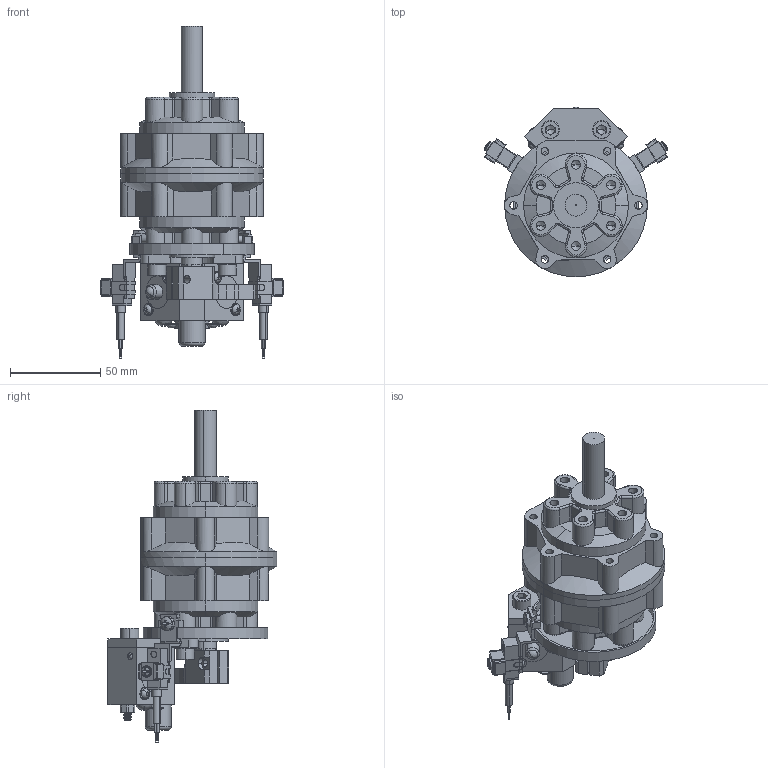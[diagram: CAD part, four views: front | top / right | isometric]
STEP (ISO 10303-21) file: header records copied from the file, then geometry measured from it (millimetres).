
FILE_DESCRIPTION (( 'STEP AP203' ), '1' );
FILE_NAME ('PRN50#-#-#-#-FC.STEP', '2016-01-14T16:40:32', ( '' ), ( '' ), 'SwSTEP 2.0', 'SolidWorks 2014', '' );
FILE_SCHEMA (( 'CONFIG_CONTROL_DESIGN' ));
Length unit declared in the file: millimetre
Products named in the file (25): 零件4; 側鐵片; 零件1; PRO-CR1; 板金2; 感應開關-板金2; PRO-CR2; M4螺絲; M6螺絲; 鏡射螺帽; 螺帽; PRN50-CR; 鏡射六孔螺帽; PRN50#-#-#-#-FC; 1; 六孔螺帽; 2; PRN50 (3); mark-PRN50; 螺絲1; PRN50 (1); CR; 圓頂; 螺絲; PRN50 (2)
Assembly tree (37 placements, depth 3):
  PRN50#-#-#-#-FC
    PRN50 (1)
    PRN50 (2)
    PRN50 (3)
    mark-PRN50
    PRN50-CR
      PRO-CR2
      2  x2
      圓頂  x3
      螺絲  x2
      零件4
      六孔螺帽  x5
      螺帽
      鏡射螺帽
      鏡射六孔螺帽
      螺絲1  x2
      M6螺絲  x4
      PRO-CR1
    CR
    零件1
    感應開關-板金2  x2
      1
      側鐵片
      M4螺絲
      板金2
Bounding box: 101.32 x 94 x 183.7 mm (x, y, z)
Volume: 325278 mm3; surface area: 101163.5 mm2
Topology: 54 solids, 54 shells, 1370 faces, 3376 edges, 2122 vertices
Faces by surface type: plane 643, cylinder 463, torus 103, cone 99, sphere 42, bspline 20
Full cylindrical faces by diameter (mm): 4.2 x1
Entity records: 34750 total; most frequent: CARTESIAN_POINT 8316, DIRECTION 5148, ORIENTED_EDGE 4738, EDGE_CURVE 2369, AXIS2_PLACEMENT_3D 1968, VERTEX_POINT 1519, VECTOR 1212, LINE 1212
